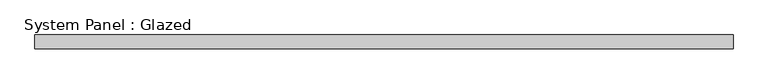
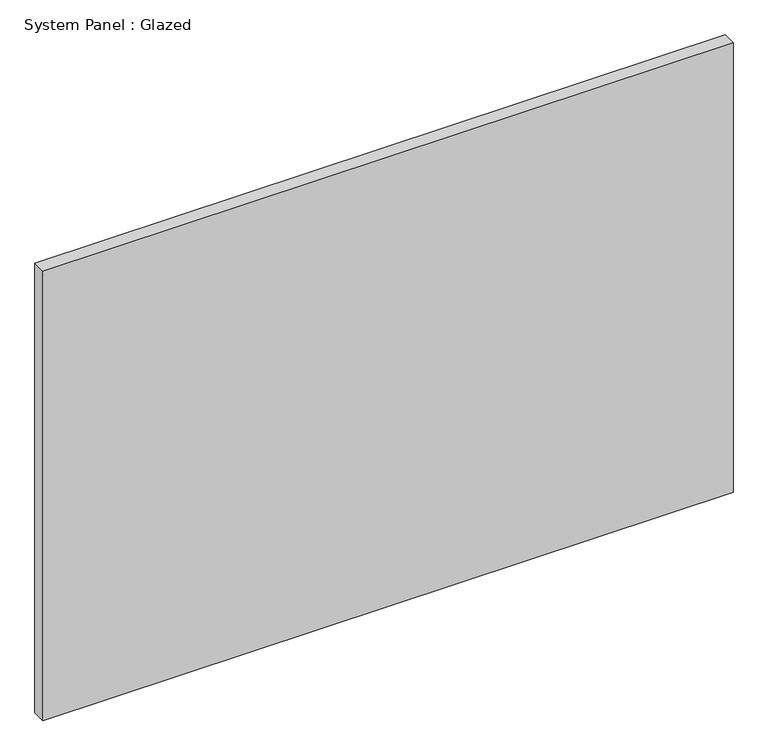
"""IFC4 building model written with IfcOpenShell, lengths in millimetres: plate geometry, System Panel : Glazed."""

from ifc_helpers import new_model, si_unit, origin, origin_with_axes, place, context, project, spatial, polyline, outline, extrude, source, transform, mapped, element, save


def system_panel_glazed_7fb24999(model_context):
    return source(origin(), model_context, "Body", "SweptSolid", [
        extrude(outline(polyline([(631.825, -44.45), (-631.825, -44.45), (-631.825, -19.05), (631.825, -19.05), (631.825, -44.45)])), origin_with_axes(), (0.0, 0.0, 1.0), 869.95),
    ])


if __name__ == "__main__":
    model = new_model("IFC4")
    model_context = context("Model", 3, world=origin())
    ifc_project = project(units=[si_unit("LENGTHUNIT", "METRE", prefix="MILLI")], contexts=[model_context])
    site = spatial("IfcSite", under=ifc_project)
    building = spatial("IfcBuilding", under=site)
    placement = place(None, origin())
    system_panel_glazed_shape = system_panel_glazed_7fb24999(model_context)
    element("IfcPlate", 1, ObjectType="System Panel : Glazed", at=placement, inside=building, context=model_context, shape_type="MappedRepresentation", body=[
        mapped(system_panel_glazed_shape, transform((0.0, 0.0, 0.0), x_axis=(1.0, 0.0, 0.0), y_axis=(0.0, 1.0, 0.0), z_axis=(0.0, 0.0, 1.0))),
    ])
    save(model, "model.ifc")
